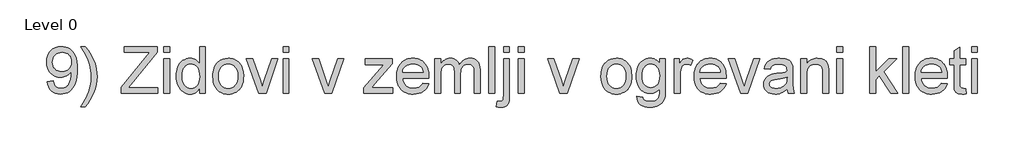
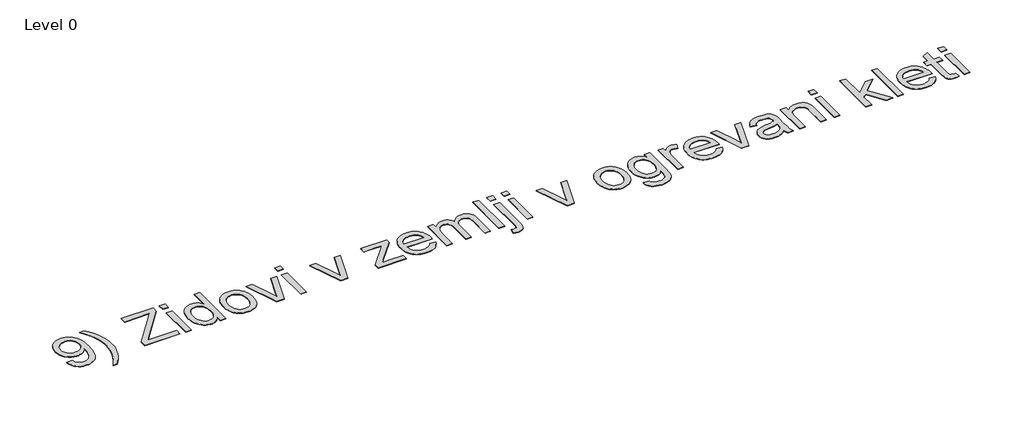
# One storey, part 8 of 11: 1 proxy.
"""IFC4 building model written with IfcOpenShell, lengths in millimetres."""

from ifc_helpers import new_model, si_unit, origin, origin_with_axes, place, context, project, spatial, polyline, outline, extrude, element, save

model = new_model("IFC4")

# Units and contexts
model_context = context("Model", 3, world=origin())
ifc_project = project(units=[si_unit("LENGTHUNIT", "METRE", prefix="MILLI")], contexts=[model_context])

# Site, building, storey
site = spatial("IfcSite", under=ifc_project)
building = spatial("IfcBuilding", under=site)
storey = spatial("IfcBuildingStorey", under=building, Name="Level 0", Elevation=0.0)

# Proxy
placement = place(None, origin())
element("IfcBuildingElementProxy", 1, Name="1000mm Arial", ObjectType="1000mm Arial", at=placement, inside=storey, context=model_context, shape_type="SweptSolid", body=[
    extrude(outline(polyline([(46863.1423258, -53767.7802272), (46988.7127135, -53752.0839288), (46997.7564793, -53790.5659183), (47010.1724966, -53823.3610653), (47025.9607655, -53850.4693699), (47045.1212861, -53871.8908319), (47067.4394605, -53888.1466175), (47092.7006908, -53899.757893), (47120.9049771, -53906.7246583), (47152.0523194, -53909.0469134), (47205.3032382, -53903.068831), (47230.1122802, -53895.5962279), (47253.7103774, -53885.1345837), (47275.2621309, -53872.1744076), (47293.9321422, -53857.2062089), (47309.7204112, -53840.2299877), (47322.6269378, -53821.2457439), (47344.3626324, -53773.9729075), (47363.707094, -53712.1074186), (47377.3187278, -53641.1061936), (47381.855939, -53566.4261485), (47381.1201751, -53541.9006822), (47361.0476137, -53569.829057), (47337.6181291, -53594.9983168), (47310.8317214, -53617.4084617), (47280.6883904, -53637.0594916), (47248.2151401, -53653.04703), (47214.4389744, -53664.4667002), (47179.3598933, -53671.3185024), (47142.9778968, -53673.6024365), (47083.3273642, -53668.0228929), (47028.4746258, -53651.2842621), (46978.4196819, -53623.3865441), (46933.1625323, -53584.329739), (46913.0727264, -53561.1263485), (46895.6615614, -53536.152526), (46880.9290371, -53509.4082714), (46868.8751536, -53480.8935847), (46852.8033089, -53418.5529149), (46847.4460274, -53349.1305167), (46853.063892, -53277.3935277), (46860.0862228, -53244.2841481), (46869.9174859, -53213.0141785), (46882.5576814, -53183.5836189), (46898.0068091, -53155.9924692), (46916.2648692, -53130.2407296), (46937.3318615, -53106.3283999), (46985.1181999, -53066.0913067), (47011.143935, -53050.2838772), (47038.5913807, -53037.3505258), (47097.7514041, -53020.1060573), (47162.5982699, -53014.3579011), (47210.4765788, -53017.6381822), (47256.2548945, -53027.4790256), (47299.9332172, -53043.8804312), (47341.5115469, -53066.8423991), (47379.6026618, -53095.8744199), (47412.8193403, -53130.4859842), (47441.1615824, -53170.6770922), (47464.629388, -53216.4477438), (47483.0311519, -53270.4344266), (47496.175269, -53335.2736282), (47504.0617393, -53410.9653487), (47506.6905627, -53497.5095881), (47504.0694035, -53588.3994335), (47496.2059259, -53669.5250777), (47483.1001298, -53740.8865205), (47464.7520153, -53802.4837621), (47441.2305602, -53855.8189872), (47412.6047425, -53902.3943806), (47378.874562, -53942.2099424), (47340.0400189, -53975.2656725), (47296.8828624, -54001.23201), (47250.1848416, -54019.7793939), (47199.9459566, -54030.9078243), (47146.1662075, -54034.6173011), (47089.7729633, -54030.2410382), (47038.8059785, -54017.1122495), (46993.2652532, -53995.230935), (46953.1507873, -53964.5970946), (46919.4742564, -53926.038463), (46893.2473358, -53880.3827746), (46874.4700256, -53827.6300293), (46863.1423258, -53767.7802272)]), holes=[polyline([(47381.1201751, -53346.1874608), (47377.732595, -53301.18323), (47367.5698549, -53261.0840925), (47350.6319547, -53225.8900483), (47326.9188944, -53195.6010974), (47297.5956337, -53171.2442436), (47263.8271323, -53153.8464909), (47225.61339, -53143.4078393), (47182.954407, -53139.9282888), (47138.9311949, -53143.6760866), (47099.0773121, -53154.9194801), (47063.3927586, -53173.6584692), (47031.8775343, -53199.893054), (47006.1257946, -53232.0903928), (46987.7316949, -53268.7176439), (46976.695235, -53309.7748074), (46973.0164151, -53355.2618833), (46976.4959656, -53396.0584637), (46986.9346172, -53432.8543275), (47004.3323699, -53465.6494745), (47028.6892237, -53494.4439048), (47058.993503, -53517.8887178), (47094.2335325, -53534.6350128), (47134.409312, -53544.6827898), (47179.5208417, -53548.0320488), (47221.5896807, -53544.6827898), (47259.7497735, -53534.6350128), (47294.0011201, -53517.8887178), (47324.3437205, -53494.4439048), (47349.1834194, -53465.0823231), (47366.9260614, -53430.5857218), (47377.5716466, -53390.954101), (47381.1201751, -53346.1874608)])]), origin_with_axes(), (0.0, 0.0, 1.0), 10.0),
    extrude(outline(polyline([(47679.3498458, -54301.4543749), (47585.172055, -54301.4543749), (47636.6755344, -54221.0644947), (47681.3118831, -54140.6592862), (47719.0811013, -54060.2387492), (47749.9831889, -53979.8028838), (47774.0181459, -53899.35169), (47791.1859723, -53818.8851677), (47801.4866682, -53738.4033171), (47804.9202335, -53657.906138), (47802.9428678, -53595.1209442), (47797.0107706, -53532.581005), (47787.123942, -53470.2863205), (47773.2823819, -53408.2368906), (47743.2999993, -53309.7058296), (47703.3848028, -53215.2214705), (47659.6068454, -53134.8392545), (47585.172055, -53014.3579011), (47679.3498458, -53014.3579011), (47741.4912462, -53098.4495938), (47794.9874196, -53182.7252276), (47839.8383662, -53267.1848023), (47876.0440859, -53351.828318), (47899.8644451, -53425.6346433), (47916.8789874, -53501.1270944), (47927.0877127, -53578.3056713), (47930.4906212, -53657.170374), (47925.9150889, -53746.902924), (47912.1884919, -53835.1026323), (47889.3108304, -53921.769499), (47857.2821041, -54006.9035241), (47818.7081441, -54088.5886554), (47776.194781, -54164.908841), (47729.7420149, -54235.8640808), (47679.3498458, -54301.4543749)])), origin_with_axes(), (0.0, 0.0, 1.0), 10.0),
    extrude(outline(polyline([(48448.4684704, -54018.9210026), (48448.4684704, -53888.6907763), (48962.2769903, -53259.6125646), (49059.8883464, -53139.9282888), (48511.2536642, -53139.9282888), (48511.2536642, -53014.3579011), (49217.587095, -53014.3579011), (49217.587095, -53139.9282888), (48655.2181517, -53828.3581291), (48602.2431444, -53893.3506149), (49233.2833934, -53893.3506149), (49233.2833934, -54018.9210026), (48448.4684704, -54018.9210026)])), origin_with_axes(), (0.0, 0.0, 1.0), 10.0),
    extrude(outline(polyline([(49358.8537811, -53139.9282888), (49358.8537811, -53014.3579011), (49484.4241688, -53014.3579011), (49484.4241688, -53139.9282888), (49358.8537811, -53139.9282888)])), origin_with_axes(), (0.0, 0.0, 1.0), 10.0),
    extrude(outline(polyline([(49358.8537811, -54018.9210026), (49358.8537811, -53281.1949749), (49484.4241688, -53281.1949749), (49484.4241688, -54018.9210026), (49358.8537811, -54018.9210026)])), origin_with_axes(), (0.0, 0.0, 1.0), 10.0),
    extrude(outline(polyline([(50127.9724057, -54018.9210026), (50127.9724057, -53900.4630002), (50110.1799463, -53931.9054144), (50090.402457, -53959.1555068), (50068.6399377, -53982.2132773), (50044.8923885, -54001.0787258), (50019.1598093, -54015.7518525), (49991.4422003, -54026.2326573), (49961.7395612, -54032.5211401), (49930.0518923, -54034.6173011), (49888.6038542, -54031.5822746), (49848.8725987, -54022.4771952), (49810.8581259, -54007.3020629), (49774.5604357, -53986.0568777), (49741.1138309, -53959.3777688), (49711.6526145, -53927.9008656), (49686.1767863, -53891.6261681), (49664.6863465, -53850.5536761), (49647.6258189, -53805.4651391), (49635.4397278, -53757.1423062), (49628.1280732, -53705.5851774), (49625.690855, -53650.7937528), (49627.936468, -53597.0063394), (49634.673307, -53545.7634431), (49645.9013721, -53497.065064), (49661.6206632, -53450.911202), (49681.8235161, -53408.6507579), (49706.5022666, -53371.6326321), (49735.6569147, -53339.8568248), (49769.2874604, -53313.3233359), (49806.2059515, -53292.4000474), (49845.2244356, -53277.4548413), (49886.3429128, -53268.4877177), (49929.561383, -53265.4986765), (49961.1685777, -53267.6369906), (49990.9976762, -53274.0519329), (50019.0486783, -53284.7435034), (50045.3215841, -53299.711702), (50069.5251537, -53318.0981376), (50091.3681472, -53339.0444187), (50110.8505645, -53362.5505453), (50127.9724057, -53388.6165175), (50127.9724057, -53014.3579011), (50253.5427934, -53014.3579011), (50253.5427934, -54018.9210026), (50127.9724057, -54018.9210026)]), holes=[polyline([(49751.2612426, -53650.3032434), (49754.8021069, -53711.1953778), (49765.4246995, -53763.8868094), (49783.1290205, -53808.3775382), (49807.9150699, -53844.6675642), (49837.5142421, -53872.8335295), (49869.6579314, -53892.9520761), (49904.3461379, -53905.0232041), (49941.5788615, -53909.0469134), (49978.9878619, -53905.2071451), (50013.4691347, -53893.6878401), (50045.02268, -53874.4889985), (50073.6484978, -53847.6106202), (50097.4152075, -53812.8381074), (50114.3914287, -53769.9568624), (50124.5771615, -53718.966885), (50127.9724057, -53659.8681753), (50124.5158478, -53595.0749589), (50114.1461741, -53539.5094492), (50096.8633845, -53493.1716462), (50072.6674791, -53456.06155), (50043.4131963, -53427.6273374), (50010.9552744, -53407.3171856), (49975.2937135, -53395.1310945), (49936.4285136, -53391.0690642), (49898.460026, -53394.9701462), (49863.7718195, -53406.6733921), (49832.3638942, -53426.1788021), (49804.23625, -53453.486376), (49781.0596843, -53489.1939222), (49764.5049945, -53533.8992488), (49754.5721806, -53587.6023559), (49751.2612426, -53650.3032434)])]), origin_with_axes(), (0.0, 0.0, 1.0), 10.0),
    extrude(outline(polyline([(50410.505778, -53650.0579888), (50412.2034001, -53600.635342), (50417.2962665, -53554.5159689), (50425.7843771, -53511.6998696), (50437.667732, -53472.1870441), (50452.9463311, -53435.9774923), (50471.6201745, -53403.0712143), (50493.6892621, -53373.46821), (50519.1535939, -53347.1684794), (50567.0089101, -53311.4379406), (50619.8306333, -53285.9161272), (50677.6187633, -53270.6030392), (50740.3733003, -53265.4986765), (50775.84134, -53267.0525947), (50809.6500786, -53271.7143494), (50841.799516, -53279.4839405), (50872.2896525, -53290.361368), (50901.1204878, -53304.346632), (50928.292022, -53321.4397324), (50953.8042552, -53341.6406692), (50977.6571872, -53364.9494425), (50999.2415137, -53390.9981702), (51017.9479299, -53419.4189704), (51033.776436, -53450.211843), (51046.7270318, -53483.3767881), (51056.7997175, -53518.9138056), (51063.994493, -53556.8228956), (51069.7503134, -53639.7572929), (51067.2057962, -53706.9723991), (51059.5722448, -53766.6152676), (51046.8496592, -53818.6858983), (51029.0380392, -53863.1842913), (51006.3596471, -53901.6202956), (50979.0367447, -53935.5037602), (50947.0693322, -53964.8346851), (50910.4574095, -53989.6130703), (50870.6265193, -54009.3024213), (50829.0022044, -54023.3662434), (50785.5844647, -54031.8045366), (50740.3733003, -54034.6173011), (50704.3457735, -54033.069131), (50670.0848466, -54028.4246208), (50637.5905198, -54020.6837705), (50606.8627929, -54009.8465801), (50577.9016661, -53995.9130495), (50550.7071392, -53978.8831788), (50525.2792123, -53958.756968), (50501.6178855, -53935.534417), (50480.2634853, -53909.399467), (50461.7563385, -53880.5360587), (50446.096445, -53848.9441924), (50433.2838049, -53814.6238679), (50423.3184181, -53777.5750853), (50416.2002847, -53737.7978446), (50410.505778, -53650.0579888)]), holes=[polyline([(50536.0761657, -53649.8127341), (50539.7090004, -53710.7201969), (50550.6075045, -53763.4576138), (50568.771678, -53808.0249847), (50594.2015209, -53844.4223096), (50625.1342654, -53872.6955737), (50659.8071434, -53892.8907624), (50698.2201551, -53905.0078756), (50740.3733003, -53909.0469134), (50782.3118478, -53904.984883), (50820.5715753, -53892.7987919), (50855.1524828, -53872.4886401), (50886.0545704, -53844.0544276), (50911.4844134, -53807.2968849), (50929.6485869, -53762.0167426), (50940.547091, -53708.2140008), (50944.1799257, -53645.8886595), (50940.5240983, -53586.9125771), (50929.5566164, -53535.5547178), (50911.2774797, -53491.8150814), (50885.6866884, -53455.693668), (50854.6696377, -53427.4204038), (50820.1117228, -53407.2252151), (50782.0129437, -53395.1081019), (50740.3733003, -53391.0690642), (50698.2201551, -53395.0927735), (50659.8071434, -53407.1639015), (50625.1342654, -53427.2824481), (50594.2015209, -53455.4484133), (50568.771678, -53491.7384393), (50550.6075045, -53536.2291681), (50539.7090004, -53588.9205997), (50536.0761657, -53649.8127341)])]), origin_with_axes(), (0.0, 0.0, 1.0), 10.0),
    extrude(outline(polyline([(51392.0149411, -54018.9210026), (51132.5355072, -53281.1949749), (51265.4635348, -53281.1949749), (51422.6717741, -53723.1438785), (51470.0059241, -53871.7682045), (51516.3590555, -53731.482537), (51674.5483134, -53281.1949749), (51807.476341, -53281.1949749), (51551.1852177, -54018.9210026), (51392.0149411, -54018.9210026)])), origin_with_axes(), (0.0, 0.0, 1.0), 10.0),
    extrude(outline(polyline([(51917.3504303, -54018.9210026), (51917.3504303, -53281.1949749), (52042.9208179, -53281.1949749), (52042.9208179, -54018.9210026), (51917.3504303, -54018.9210026)])), origin_with_axes(), (0.0, 0.0, 1.0), 10.0),
    extrude(outline(polyline([(51917.3504303, -53139.9282888), (51917.3504303, -53014.3579011), (52042.9208179, -53014.3579011), (52042.9208179, -53139.9282888), (51917.3504303, -53139.9282888)])), origin_with_axes(), (0.0, 0.0, 1.0), 10.0),
    extrude(outline(polyline([(52804.6818026, -54018.9210026), (52545.2023687, -53281.1949749), (52678.1303963, -53281.1949749), (52835.3386355, -53723.1438785), (52882.6727856, -53871.7682045), (52929.025917, -53731.482537), (53087.2151749, -53281.1949749), (53220.1432025, -53281.1949749), (52963.8520792, -54018.9210026), (52804.6818026, -54018.9210026)])), origin_with_axes(), (0.0, 0.0, 1.0), 10.0),
    extrude(outline(polyline([(53643.9432609, -54018.9210026), (53643.9432609, -53900.7082548), (54077.3082513, -53406.7653626), (53949.0400623, -53406.7653626), (53675.3358579, -53406.7653626), (53675.3358579, -53281.1949749), (54256.0989009, -53281.1949749), (54256.0989009, -53387.8807535), (53871.7848433, -53826.1508371), (53812.9237241, -53893.3506149), (53958.1144848, -53893.3506149), (54271.7951994, -53893.3506149), (54271.7951994, -54018.9210026), (53643.9432609, -54018.9210026)])), origin_with_axes(), (0.0, 0.0, 1.0), 10.0),
    extrude(outline(polyline([(54913.8719083, -53799.1728241), (55036.9897493, -53814.8691226), (55018.1128045, -53864.1806384), (54992.6293121, -53907.6366991), (54960.5392722, -53945.2373047), (54921.8426849, -53976.9824552), (54876.9380888, -54002.1977002), (54826.2240229, -54020.2085896), (54769.7004872, -54031.0151232), (54707.3674817, -54034.6173011), (54667.3488184, -54033.0633828), (54629.4531408, -54028.4016282), (54593.6804488, -54020.6320371), (54560.0307426, -54009.7546096), (54528.504022, -53995.7693456), (54499.1002872, -53978.6762452), (54471.8195379, -53958.4753083), (54446.6617744, -53935.166535), (54424.0715207, -53909.0526615), (54404.4933007, -53880.436424), (54387.9271146, -53849.3178226), (54374.3729624, -53815.6968571), (54363.8308439, -53779.5735276), (54356.3007594, -53740.9478342), (54351.7827086, -53699.8197768), (54350.2766917, -53656.1893554), (54351.798037, -53611.0739936), (54356.362073, -53568.5567984), (54363.9687997, -53528.6377698), (54374.618217, -53491.3169079), (54388.310325, -53456.5942125), (54405.0451237, -53424.4696836), (54424.8226131, -53394.9433214), (54447.6427931, -53368.0151258), (54472.888695, -53343.987833), (54499.9433501, -53323.1641792), (54528.8067583, -53305.5441645), (54559.4789196, -53291.1277888), (54591.9598341, -53279.9150522), (54626.2495017, -53271.9059546), (54662.3479225, -53267.100496), (54700.2550964, -53265.4986765), (54736.9225847, -53267.0966639), (54771.8771224, -53271.8906261), (54805.1187095, -53279.8805632), (54836.6473461, -53291.0664751), (54866.4630322, -53305.4483619), (54894.5657678, -53323.0262235), (54920.9555528, -53343.8000599), (54945.6323872, -53367.7698711), (54967.963974, -53394.6367531), (54987.3180158, -53424.1018017), (55003.6945127, -53456.1650168), (55017.0934648, -53490.8263985), (55027.5148719, -53528.0859468), (55034.9587342, -53567.9436618), (55040.913824, -53655.4535914), (55040.17806, -53689.2987349), (54475.8470794, -53689.2987349), (54483.120413, -53739.4073283), (54497.5827739, -53783.2925847), (54519.2341622, -53820.9545039), (54548.0745778, -53852.3930861), (54582.5098654, -53877.1791355), (54620.9458696, -53894.8834566), (54663.3825906, -53905.5060492), (54709.8200283, -53909.0469134), (54744.55422, -53907.4067728), (54776.6519241, -53902.4863511), (54806.1131405, -53894.2856483), (54832.9378694, -53882.8046644), (54857.1261105, -53867.736831), (54878.6778641, -53848.7755798), (54897.59313, -53825.9209109), (54913.8719083, -53799.1728241)]), holes=[polyline([(54475.8470794, -53563.7283472), (54915.3434363, -53563.7283472), (54908.8901729, -53528.1970779), (54898.3595508, -53497.3869608), (54883.7515699, -53471.2979959), (54865.0662303, -53449.9301834), (54830.8225479, -53424.1784437), (54791.8577132, -53405.784344), (54748.1717263, -53394.7478841), (54699.7645871, -53391.0690642), (54655.6110835, -53394.0044559), (54615.1210714, -53402.8106312), (54578.2945508, -53417.4875899), (54545.1315218, -53438.0353322), (54517.3027817, -53463.5034962), (54496.4791279, -53492.94172), (54482.6605605, -53526.3500037), (54475.8470794, -53563.7283472)])]), origin_with_axes(), (0.0, 0.0, 1.0), 10.0),
    extrude(outline(polyline([(55166.4842117, -54018.9210026), (55166.4842117, -53281.1949749), (55292.0545993, -53281.1949749), (55292.0545993, -53402.5960333), (55309.5903078, -53373.2037948), (55329.8238175, -53346.8312542), (55352.7551285, -53323.4784118), (55378.3842409, -53303.1452673), (55406.2972873, -53286.6748838), (55436.0804005, -53274.9103242), (55467.7335805, -53267.8515884), (55501.2568273, -53265.4986765), (55537.907071, -53267.8975737), (55571.0930927, -53275.0942652), (55600.8148922, -53287.0887511), (55627.0724696, -53303.8810313), (55649.7891828, -53324.995925), (55668.8883897, -53349.9582512), (55684.3700904, -53378.76801), (55696.2342847, -53411.4252012), (55718.3148686, -53377.223672), (55742.0049363, -53347.5823467), (55767.3044877, -53322.5012252), (55794.2135228, -53301.9803077), (55822.7320416, -53286.019594), (55852.8600442, -53274.6190843), (55884.5975304, -53267.7787784), (55917.9445005, -53265.4986765), (55968.2140423, -53269.2924596), (56012.3368891, -53280.6738088), (56050.3130409, -53299.6427242), (56082.1424976, -53326.1992057), (56107.3040933, -53360.6498217), (56125.2766616, -53403.3011405), (56136.0602026, -53454.1531621), (56139.6547162, -53513.2058866), (56139.6547162, -54018.9210026), (56014.0843285, -54018.9210026), (56014.0843285, -53567.1619125), (56011.1719294, -53504.5300028), (56002.434732, -53462.3155439), (55986.0639832, -53433.4061504), (55960.2509299, -53410.6894372), (55927.0495798, -53395.9741574), (55888.5139409, -53391.0690642), (55852.929022, -53394.2113895), (55820.4864286, -53403.6383657), (55791.1861605, -53419.3499925), (55765.0282178, -53441.3462702), (55743.5147853, -53470.270992), (55728.1480478, -53506.7679516), (55718.9280053, -53550.837149), (55715.8546578, -53602.4785841), (55715.8546578, -54018.9210026), (55590.2842701, -54018.9210026), (55590.2842701, -53553.1823967), (55588.4678527, -53515.137267), (55583.0186007, -53482.1811716), (55573.9365139, -53454.3141105), (55561.2215925, -53431.5360836), (55544.3679986, -53413.8317626), (55522.8698945, -53401.185819), (55496.7272802, -53393.5982529), (55465.9401557, -53391.0690642), (55441.2767336, -53392.75519), (55417.5636734, -53397.8135674), (55394.8009749, -53406.2441965), (55372.9886383, -53418.0470771), (55353.1230105, -53433.0995821), (55336.2004388, -53451.279084), (55322.2209229, -53472.5855829), (55311.1844631, -53497.0190788), (55302.8151477, -53525.882487), (55296.8370653, -53560.4787229), (55292.0545993, -53646.8696781), (55292.0545993, -54018.9210026), (55166.4842117, -54018.9210026)])), origin_with_axes(), (0.0, 0.0, 1.0), 10.0),
    extrude(outline(polyline([(56328.0102978, -54018.9210026), (56328.0102978, -53014.3579011), (56453.5806854, -53014.3579011), (56453.5806854, -54018.9210026), (56328.0102978, -54018.9210026)])), origin_with_axes(), (0.0, 0.0, 1.0), 10.0),
    extrude(outline(polyline([(56641.936267, -53139.9282888), (56641.936267, -53014.3579011), (56767.5066547, -53014.3579011), (56767.5066547, -53139.9282888), (56641.936267, -53139.9282888)])), origin_with_axes(), (0.0, 0.0, 1.0), 10.0),
    extrude(outline(polyline([(56483.747009, -54301.9448842), (56510.2345127, -54182.5058631), (56542.9146966, -54189.31168), (56567.8693586, -54191.5802857), (56585.4280597, -54190.0244514), (56600.5801994, -54185.3569486), (56613.3257776, -54177.5777772), (56623.6647945, -54166.6869373), (56631.6585637, -54149.5727603), (56637.3683989, -54123.1235777), (56641.936267, -54042.2201956), (56641.936267, -53281.1949749), (56767.5066547, -53281.1949749), (56767.5066547, -54058.4070034), (56765.2840343, -54121.1921973), (56758.6161731, -54173.6766952), (56747.5030712, -54215.8604974), (56731.9447285, -54247.7436036), (56705.6411658, -54278.1091966), (56671.8573359, -54299.7989059), (56630.5932388, -54312.8127315), (56581.8488744, -54317.1506734), (56531.9395504, -54313.3492261), (56483.747009, -54301.9448842)])), origin_with_axes(), (0.0, 0.0, 1.0), 10.0),
    extrude(outline(polyline([(56955.8622362, -54018.9210026), (56955.8622362, -53281.1949749), (57081.4326239, -53281.1949749), (57081.4326239, -54018.9210026), (56955.8622362, -54018.9210026)])), origin_with_axes(), (0.0, 0.0, 1.0), 10.0),
    extrude(outline(polyline([(56955.8622362, -53139.9282888), (56955.8622362, -53014.3579011), (57081.4326239, -53014.3579011), (57081.4326239, -53139.9282888), (56955.8622362, -53139.9282888)])), origin_with_axes(), (0.0, 0.0, 1.0), 10.0),
    extrude(outline(polyline([(57843.1936086, -54018.9210026), (57583.7141746, -53281.1949749), (57716.6422022, -53281.1949749), (57873.8504415, -53723.1438785), (57921.1845915, -53871.7682045), (57967.5377229, -53731.482537), (58125.7269809, -53281.1949749), (58258.6550084, -53281.1949749), (58002.3638851, -54018.9210026), (57843.1936086, -54018.9210026)])), origin_with_axes(), (0.0, 0.0, 1.0), 10.0),
    extrude(outline(polyline([(58729.5439623, -53650.0579888), (58731.2415844, -53600.635342), (58736.3344508, -53554.5159689), (58744.8225614, -53511.6998696), (58756.7059162, -53472.1870441), (58771.9845154, -53435.9774923), (58790.6583587, -53403.0712143), (58812.7274463, -53373.46821), (58838.1917782, -53347.1684794), (58886.0470944, -53311.4379406), (58938.8688175, -53285.9161272), (58996.6569476, -53270.6030392), (59059.4114846, -53265.4986765), (59094.8795243, -53267.0525947), (59128.6882628, -53271.7143494), (59160.8377003, -53279.4839405), (59191.3278367, -53290.361368), (59220.158672, -53304.346632), (59247.3302063, -53321.4397324), (59272.8424394, -53341.6406692), (59296.6953715, -53364.9494425), (59318.2796979, -53390.9981702), (59336.9861142, -53419.4189704), (59352.8146202, -53450.211843), (59365.7652161, -53483.3767881), (59375.8379018, -53518.9138056), (59383.0326772, -53556.8228956), (59388.7884976, -53639.7572929), (59386.2439805, -53706.9723991), (59378.6104291, -53766.6152676), (59365.8878434, -53818.6858983), (59348.0762235, -53863.1842913), (59325.3978313, -53901.6202956), (59298.074929, -53935.5037602), (59266.1075164, -53964.8346851), (59229.4955937, -53989.6130703), (59189.6647035, -54009.3024213), (59148.0403886, -54023.3662434), (59104.622649, -54031.8045366), (59059.4114846, -54034.6173011), (59023.3839578, -54033.069131), (58989.1230309, -54028.4246208), (58956.6287041, -54020.6837705), (58925.9009772, -54009.8465801), (58896.9398503, -53995.9130495), (58869.7453235, -53978.8831788), (58844.3173966, -53958.756968), (58820.6560697, -53935.534417), (58799.3016696, -53909.399467), (58780.7945227, -53880.5360587), (58765.1346293, -53848.9441924), (58752.3219891, -53814.6238679), (58742.3566024, -53777.5750853), (58735.238469, -53737.7978446), (58729.5439623, -53650.0579888)]), holes=[polyline([(58855.11435, -53649.8127341), (58858.7471847, -53710.7201969), (58869.6456888, -53763.4576138), (58887.8098623, -53808.0249847), (58913.2397052, -53844.4223096), (58944.1724496, -53872.6955737), (58978.8453277, -53892.8907624), (59017.2583393, -53905.0078756), (59059.4114846, -53909.0469134), (59101.3500321, -53904.984883), (59139.6097596, -53892.7987919), (59174.1906671, -53872.4886401), (59205.0927547, -53844.0544276), (59230.5225976, -53807.2968849), (59248.6867711, -53762.0167426), (59259.5852752, -53708.2140008), (59263.2181099, -53645.8886595), (59259.5622826, -53586.9125771), (59248.5948006, -53535.5547178), (59230.315664, -53491.8150814), (59204.7248727, -53455.693668), (59173.707822, -53427.4204038), (59139.1499071, -53407.2252151), (59101.0511279, -53395.1081019), (59059.4114846, -53391.0690642), (59017.2583393, -53395.0927735), (58978.8453277, -53407.1639015), (58944.1724496, -53427.2824481), (58913.2397052, -53455.4484133), (58887.8098623, -53491.7384393), (58869.6456888, -53536.2291681), (58858.7471847, -53588.9205997), (58855.11435, -53649.8127341)])]), origin_with_axes(), (0.0, 0.0, 1.0), 10.0),
    extrude(outline(polyline([(59498.6625869, -54081.7061964), (59624.2329745, -54097.4024949), (59629.5366066, -54118.5557096), (59638.089863, -54136.6432411), (59649.8927437, -54151.6650892), (59664.9452487, -54163.621254), (59689.3021024, -54175.8533304), (59717.736315, -54184.5905278), (59750.2478863, -54189.8328462), (59786.8368164, -54191.5802857), (59826.0469057, -54189.6029199), (59860.5358428, -54183.6708228), (59890.3036276, -54173.7839942), (59915.3502601, -54159.9424341), (59936.1969065, -54142.529353), (59953.3647329, -54121.9279613), (59966.8537394, -54098.1382589), (59976.6639259, -54071.1602459), (59983.4697428, -54017.1429063), (59985.2478391, -53924.7432118), (59943.4625759, -53965.9459953), (59896.833533, -53995.3765549), (59871.7025942, -54005.6772508), (59845.3607105, -54013.0348907), (59789.0441084, -54018.9210026), (59753.5913971, -54017.2080521), (59720.1965258, -54012.0692004), (59688.8594944, -54003.5044477), (59659.5803029, -53991.513794), (59632.3589513, -53976.0972391), (59607.1954396, -53957.2547832), (59584.0897679, -53934.9864261), (59563.041936, -53909.292168), (59528.0088402, -53851.7492926), (59502.9852003, -53788.749501), (59487.9710164, -53720.292793), (59482.9662884, -53646.3791688), (59485.2119014, -53594.6687559), (59491.9487404, -53544.9970223), (59503.1768055, -53497.3639681), (59518.8960966, -53451.7695934), (59538.8690232, -53409.7314112), (59562.857995, -53372.7669349), (59590.8630119, -53340.8761644), (59622.8840739, -53314.0590998), (59658.4076791, -53292.8139146), (59696.9203254, -53277.6387823), (59738.422013, -53268.5337029), (59782.9127418, -53265.4986765), (59812.952606, -53267.2154591), (59841.6359053, -53272.3658071), (59868.9626397, -53280.9497203), (59894.9328093, -53292.9671988), (59919.5464141, -53308.4182426), (59942.8034539, -53327.3028517), (59964.703929, -53349.621026), (59985.2478391, -53375.3727657), (59985.2478391, -53281.1949749), (60110.8182268, -53281.1949749), (60110.8182268, -53918.1213359), (60108.6722485, -53997.9287363), (60102.2343136, -54065.1821635), (60091.5044221, -54119.8816177), (60076.4825739, -54162.0270987), (60056.8085514, -54196.0178622), (60032.1221367, -54226.2531637), (60002.4233298, -54252.7330032), (59967.7121307, -54275.4573806), (59928.341093, -54293.6981962), (59884.6627703, -54306.7273502), (59836.6771625, -54314.5448426), (59784.3842698, -54317.1506734), (59722.8636703, -54313.4795176), (59667.5510795, -54302.4660504), (59618.4464973, -54284.1102717), (59575.5499238, -54258.4121815), (59540.9000384, -54225.3411229), (59516.5355205, -54184.8664393), (59502.4563699, -54136.9881304), (59498.6625869, -54081.7061964)]), holes=[polyline([(59608.5366761, -53637.7952556), (59611.8859351, -53699.8830065), (59621.9337121, -53752.9729769), (59638.6800071, -53797.0651669), (59662.12482, -53832.1595764), (59690.6280105, -53858.9306557), (59722.5494378, -53878.0528553), (59757.8891019, -53889.526175), (59796.6470029, -53893.3506149), (59835.0216936, -53889.5491676), (59870.1927451, -53878.1448258), (59902.1601577, -53859.1375894), (59930.9239312, -53832.5274584), (59954.6906409, -53797.7779383), (59971.6668622, -53754.3525344), (59981.8525949, -53702.2512468), (59985.2478391, -53641.4740756), (59981.7529602, -53583.2337572), (59971.2683233, -53532.6116618), (59953.7939286, -53489.6077894), (59929.3297759, -53454.22214), (59899.9452015, -53426.5926693), (59867.7095417, -53406.8573331), (59832.6227964, -53395.0161314), (59794.6849656, -53391.0690642), (59757.3832642, -53394.9548177), (59722.9786334, -53406.6120785), (59691.4710734, -53426.0408463), (59662.860584, -53453.2411214), (59639.0938743, -53488.0902762), (59622.1176531, -53530.4656835), (59611.9319203, -53580.3673433), (59608.5366761, -53637.7952556)])]), origin_with_axes(), (0.0, 0.0, 1.0), 10.0),
    extrude(outline(polyline([(60299.1738084, -54018.9210026), (60299.1738084, -53281.1949749), (60409.0478976, -53281.1949749), (60409.0478976, -53390.3333002), (60449.6375444, -53327.057597), (60468.7367513, -53305.1686183), (60487.0388806, -53289.7788882), (60524.5628441, -53271.5687294), (60565.5203729, -53265.4986765), (60596.6677151, -53267.9205663), (60628.060312, -53275.1862357), (60659.6981636, -53287.2956847), (60691.5812699, -53304.2489133), (60649.6427224, -53416.8208038), (60605.496883, -53397.5069991), (60583.4239633, -53392.6785479), (60561.3510436, -53391.0690642), (60542.1062167, -53392.6172342), (60523.8577369, -53397.2617444), (60506.6056042, -53405.0025947), (60490.3498185, -53415.8397852), (60475.7035166, -53429.4207622), (60463.279835, -53445.3929721), (60445.1003331, -53484.5110909), (60429.8332303, -53554.6539247), (60424.744196, -53631.1733797), (60424.744196, -54018.9210026), (60299.1738084, -54018.9210026)])), origin_with_axes(), (0.0, 0.0, 1.0), 10.0),
    extrude(outline(polyline([(61286.5690834, -53799.1728241), (61409.6869245, -53814.8691226), (61390.8099796, -53864.1806384), (61365.3264872, -53907.6366991), (61333.2364473, -53945.2373047), (61294.53986, -53976.9824552), (61249.6352639, -54002.1977002), (61198.9211981, -54020.2085896), (61142.3976623, -54031.0151232), (61080.0646568, -54034.6173011), (61040.0459935, -54033.0633828), (61002.1503159, -54028.4016282), (60966.377624, -54020.6320371), (60932.7279177, -54009.7546096), (60901.2011972, -53995.7693456), (60871.7974623, -53978.6762452), (60844.5167131, -53958.4753083), (60819.3589495, -53935.166535), (60796.7686958, -53909.0526615), (60777.1904758, -53880.436424), (60760.6242897, -53849.3178226), (60747.0701375, -53815.6968571), (60736.5280191, -53779.5735276), (60728.9979345, -53740.9478342), (60724.4798837, -53699.8197768), (60722.9738668, -53656.1893554), (60724.4952121, -53611.0739936), (60729.0592481, -53568.5567984), (60736.6659748, -53528.6377698), (60747.3153922, -53491.3169079), (60761.0075002, -53456.5942125), (60777.7422988, -53424.4696836), (60797.5197882, -53394.9433214), (60820.3399682, -53368.0151258), (60845.5858701, -53343.987833), (60872.6405252, -53323.1641792), (60901.5039334, -53305.5441645), (60932.1760947, -53291.1277888), (60964.6570092, -53279.9150522), (60998.9466769, -53271.9059546), (61035.0450976, -53267.100496), (61072.9522715, -53265.4986765), (61109.6197598, -53267.0966639), (61144.5742975, -53271.8906261), (61177.8158846, -53279.8805632), (61209.3445213, -53291.0664751), (61239.1602073, -53305.4483619), (61267.2629429, -53323.0262235), (61293.6527279, -53343.8000599), (61318.3295623, -53367.7698711), (61340.6611491, -53394.6367531), (61360.0151909, -53424.1018017), (61376.3916879, -53456.1650168), (61389.7906399, -53490.8263985), (61400.212047, -53528.0859468), (61407.6559093, -53567.9436618), (61413.6109991, -53655.4535914), (61412.8752351, -53689.2987349), (60848.5442545, -53689.2987349), (60855.8175881, -53739.4073283), (60870.279949, -53783.2925847), (60891.9313373, -53820.9545039), (60920.7717529, -53852.3930861), (60955.2070405, -53877.1791355), (60993.6430448, -53894.8834566), (61036.0797657, -53905.5060492), (61082.5172034, -53909.0469134), (61117.2513951, -53907.4067728), (61149.3490992, -53902.4863511), (61178.8103157, -53894.2856483), (61205.6350445, -53882.8046644), (61229.8232857, -53867.736831), (61251.3750392, -53848.7755798), (61270.2903051, -53825.9209109), (61286.5690834, -53799.1728241)]), holes=[polyline([(60848.5442545, -53563.7283472), (61288.0406114, -53563.7283472), (61281.5873481, -53528.1970779), (61271.056726, -53497.3869608), (61256.4487451, -53471.2979959), (61237.7634054, -53449.9301834), (61203.519723, -53424.1784437), (61164.5548883, -53405.784344), (61120.8689014, -53394.7478841), (61072.4617622, -53391.0690642), (61028.3082586, -53394.0044559), (60987.8182465, -53402.8106312), (60950.9917259, -53417.4875899), (60917.8286969, -53438.0353322), (60889.9999568, -53463.5034962), (60869.1763031, -53492.94172), (60855.3577356, -53526.3500037), (60848.5442545, -53563.7283472)])]), origin_with_axes(), (0.0, 0.0, 1.0), 10.0),
    extrude(outline(polyline([(61720.1793284, -54018.9210026), (61460.6998945, -53281.1949749), (61593.6279221, -53281.1949749), (61750.8361613, -53723.1438785), (61798.1703114, -53871.7682045), (61844.5234428, -53731.482537), (62002.7127007, -53281.1949749), (62135.6407283, -53281.1949749), (61879.349605, -54018.9210026), (61720.1793284, -54018.9210026)])), origin_with_axes(), (0.0, 0.0, 1.0), 10.0),
    extrude(outline(polyline([(62716.4037713, -53924.7432118), (62686.6283223, -53952.6869151), (62656.4083493, -53976.1853775), (62625.7438521, -53995.2385992), (62594.6348309, -54009.8465801), (62562.7287321, -54020.6837705), (62529.6730019, -54028.4246208), (62495.4676406, -54033.069131), (62460.112648, -54034.6173011), (62404.202249, -54030.8924959), (62355.1743089, -54019.7180803), (62313.0288278, -54001.0940543), (62277.7658058, -53975.0204178), (62249.9217372, -53943.15264), (62230.0331169, -53907.1461897), (62218.0999447, -53867.001067), (62214.1222206, -53822.7172718), (62220.1309598, -53770.6619695), (62227.6418839, -53746.4277431), (62238.1571776, -53723.3891331), (62265.9629251, -53682.9221137), (62301.3102534, -53651.2842621), (62342.8502621, -53627.3719324), (62389.2340503, -53610.0814786), (62434.422222, -53600.4552331), (62497.8818662, -53591.1968695), (62626.2726825, -53571.3312418), (62675.8447814, -53560.110841), (62715.6680073, -53548.0320488), (62716.4037713, -53520.0730171), (62714.2424646, -53489.630782), (62707.7585444, -53464.0323265), (62696.9520108, -53443.2776506), (62681.8228638, -53427.3667544), (62655.6725853, -53411.4865149), (62623.8201359, -53400.1434867), (62586.2655155, -53393.3376698), (62543.0087243, -53391.0690642), (62502.7869595, -53392.5789132), (62468.2060519, -53397.1084603), (62439.2660016, -53404.6577054), (62415.9668086, -53415.2266485), (62396.8216164, -53429.6430242), (62380.3435687, -53448.7345669), (62366.5326655, -53472.5012766), (62355.3889067, -53500.9431534), (62229.818519, -53485.2468549), (62239.3757867, -53449.0717921), (62251.6155273, -53416.5755492), (62266.5377407, -53387.7581262), (62284.142427, -53362.6195232), (62305.1883428, -53340.6539024), (62330.4342447, -53321.3554261), (62359.8801328, -53304.7240942), (62393.5260069, -53290.7599068), (62430.6897526, -53279.7081185), (62470.6892554, -53271.8139841), (62513.5245152, -53267.0775034), (62559.1955321, -53265.4986765), (62644.0843024, -53271.0782201), (62679.9298044, -53278.0526496), (62711.3760507, -53287.8168509), (62762.1131092, -53312.9861107), (62781.6645044, -53327.7090547), (62797.3378103, -53343.8575415), (62820.698317, -53382.0252985), (62835.8427924, -53429.083537), (62840.4413174, -53472.4936124), (62841.974159, -53538.9576262), (62841.974159, -53695.1848468), (62843.5683143, -53831.2705282), (62848.3507803, -53913.33887), (62857.7930848, -53967.2642391), (62873.3667559, -54018.9210026), (62747.7963683, -54018.9210026), (62727.6854859, -53975.2656725), (62716.4037713, -53924.7432118)]), holes=[polyline([(62716.4037713, -53673.6024365), (62632.0361671, -53694.5103965), (62513.8234193, -53712.1074186), (62448.6776493, -53721.7336642), (62405.7887401, -53732.4635557), (62377.6764243, -53746.3817578), (62356.8604347, -53765.5729353), (62343.9845649, -53788.56556), (62339.6926083, -53813.888104), (62342.0301918, -53833.4011781), (62349.0429423, -53851.2281265), (62360.7308599, -53867.368949), (62377.0939444, -53881.8236457), (62397.9789119, -53893.7338253), (62423.232478, -53902.2410965), (62452.8546428, -53907.3454591), (62486.8454063, -53909.0469134), (62521.5489412, -53907.1691824), (62554.2904388, -53901.5359893), (62585.0698991, -53892.1473342), (62613.887322, -53879.0032171), (62639.8843163, -53863.1919555), (62662.2024907, -53845.801867), (62680.8418451, -53826.8329517), (62695.8023796, -53806.2852094), (62704.4935917, -53787.8911096), (62710.7016004, -53765.5729353), (62715.6680073, -53709.1643627), (62716.4037713, -53673.6024365)])]), origin_with_axes(), (0.0, 0.0, 1.0), 10.0),
    extrude(outline(polyline([(63014.6334421, -54018.9210026), (63014.6334421, -53281.1949749), (63140.2038298, -53281.1949749), (63140.2038298, -53384.2019336), (63160.9201846, -53356.3808577), (63183.828503, -53332.2692586), (63208.928785, -53311.8671363), (63236.2210305, -53295.1744908), (63265.7052396, -53282.191322), (63297.3814122, -53272.91763), (63331.2495484, -53267.3534149), (63367.3096481, -53265.4986765), (63429.2057938, -53271.4767589), (63458.1994936, -53278.9493619), (63485.8902779, -53289.4110062), (63511.2281503, -53302.3022044), (63533.1631143, -53317.0634695), (63551.6951698, -53333.6948013), (63566.8243169, -53352.1962), (63589.6636574, -53394.7172273), (63604.4709077, -53444.5345808), (63609.4373146, -53492.1752992), (63611.0927836, -53565.9356392), (63611.0927836, -54018.9210026), (63485.5223959, -54018.9210026), (63485.5223959, -53582.858211), (63481.9048896, -53517.9270388), (63471.0523708, -53471.7578484), (63462.4301365, -53454.2911179), (63451.0334589, -53438.6791257), (63436.8623378, -53424.9218719), (63419.9167734, -53413.0193565), (63380.0322338, -53396.5566373), (63333.7097592, -53391.0690642), (63295.5803233, -53394.1500759), (63260.164017, -53403.393111), (63227.4608405, -53418.7981696), (63197.4707937, -53440.3652515), (63172.416497, -53470.5469035), (63154.5205708, -53511.7956723), (63143.783015, -53564.1115576), (63140.2038298, -53627.4945597), (63140.2038298, -54018.9210026), (63014.6334421, -54018.9210026)])), origin_with_axes(), (0.0, 0.0, 1.0), 10.0),
    extrude(outline(polyline([(63783.7520667, -53139.9282888), (63783.7520667, -53014.3579011), (63909.3224544, -53014.3579011), (63909.3224544, -53139.9282888), (63783.7520667, -53139.9282888)])), origin_with_axes(), (0.0, 0.0, 1.0), 10.0),
    extrude(outline(polyline([(63783.7520667, -54018.9210026), (63783.7520667, -53281.1949749), (63909.3224544, -53281.1949749), (63909.3224544, -54018.9210026), (63783.7520667, -54018.9210026)])), origin_with_axes(), (0.0, 0.0, 1.0), 10.0),
    extrude(outline(polyline([(64490.0854974, -54018.9210026), (64490.0854974, -53014.3579011), (64615.6558851, -53014.3579011), (64615.6558851, -53554.1634154), (64897.2082387, -53281.1949749), (65070.8485405, -53281.1949749), (64785.8626215, -53557.5969807), (65086.5448389, -54018.9210026), (64939.8825502, -54018.9210026), (64695.85416, -53644.9076408), (64615.6558851, -53722.6533692), (64615.6558851, -54018.9210026), (64490.0854974, -54018.9210026)])), origin_with_axes(), (0.0, 0.0, 1.0), 10.0),
    extrude(outline(polyline([(65196.4189282, -54018.9210026), (65196.4189282, -53014.3579011), (65321.9893158, -53014.3579011), (65321.9893158, -54018.9210026), (65196.4189282, -54018.9210026)])), origin_with_axes(), (0.0, 0.0, 1.0), 10.0),
    extrude(outline(polyline([(66026.8512186, -53799.1728241), (66149.9690597, -53814.8691226), (66131.0921148, -53864.1806384), (66105.6086224, -53907.6366991), (66073.5185825, -53945.2373047), (66034.8219952, -53976.9824552), (65989.9173991, -54002.1977002), (65939.2033332, -54020.2085896), (65882.6797975, -54031.0151232), (65820.346792, -54034.6173011), (65780.3281287, -54033.0633828), (65742.4324511, -54028.4016282), (65706.6597592, -54020.6320371), (65673.0100529, -54009.7546096), (65641.4833323, -53995.7693456), (65612.0795975, -53978.6762452), (65584.7988482, -53958.4753083), (65559.6410847, -53935.166535), (65537.050831, -53909.0526615), (65517.472611, -53880.436424), (65500.9064249, -53849.3178226), (65487.3522727, -53815.6968571), (65476.8101542, -53779.5735276), (65469.2800697, -53740.9478342), (65464.7620189, -53699.8197768), (65463.256002, -53656.1893554), (65464.7773473, -53611.0739936), (65469.3413833, -53568.5567984), (65476.94811, -53528.6377698), (65487.5975273, -53491.3169079), (65501.2896353, -53456.5942125), (65518.024434, -53424.4696836), (65537.8019234, -53394.9433214), (65560.6221034, -53368.0151258), (65585.8680053, -53343.987833), (65612.9226604, -53323.1641792), (65641.7860686, -53305.5441645), (65672.4582299, -53291.1277888), (65704.9391444, -53279.9150522), (65739.228812, -53271.9059546), (65775.3272328, -53267.100496), (65813.2344067, -53265.4986765), (65849.901895, -53267.0966639), (65884.8564327, -53271.8906261), (65918.0980198, -53279.8805632), (65949.6266564, -53291.0664751), (65979.4423425, -53305.4483619), (66007.5450781, -53323.0262235), (66033.9348631, -53343.8000599), (66058.6116975, -53367.7698711), (66080.9432843, -53394.6367531), (66100.2973261, -53424.1018017), (66116.673823, -53456.1650168), (66130.0727751, -53490.8263985), (66140.4941822, -53528.0859468), (66147.9380445, -53567.9436618), (66153.8931343, -53655.4535914), (66153.1573703, -53689.2987349), (65588.8263897, -53689.2987349), (65596.0997233, -53739.4073283), (65610.5620842, -53783.2925847), (65632.2134725, -53820.9545039), (65661.0538881, -53852.3930861), (65695.4891757, -53877.1791355), (65733.9251799, -53894.8834566), (65776.3619009, -53905.5060492), (65822.7993386, -53909.0469134), (65857.5335303, -53907.4067728), (65889.6312344, -53902.4863511), (65919.0924508, -53894.2856483), (65945.9171797, -53882.8046644), (65970.1054208, -53867.736831), (65991.6571744, -53848.7755798), (66010.5724403, -53825.9209109), (66026.8512186, -53799.1728241)]), holes=[polyline([(65588.8263897, -53563.7283472), (66028.3227466, -53563.7283472), (66021.8694832, -53528.1970779), (66011.3388611, -53497.3869608), (65996.7308802, -53471.2979959), (65978.0455406, -53449.9301834), (65943.8018582, -53424.1784437), (65904.8370235, -53405.784344), (65861.1510366, -53394.7478841), (65812.7438974, -53391.0690642), (65768.5903938, -53394.0044559), (65728.1003817, -53402.8106312), (65691.2738611, -53417.4875899), (65658.1108321, -53438.0353322), (65630.282092, -53463.5034962), (65609.4584382, -53492.94172), (65595.6398708, -53526.3500037), (65588.8263897, -53563.7283472)])]), origin_with_axes(), (0.0, 0.0, 1.0), 10.0),
    extrude(outline(polyline([(66546.3005958, -53914.1972613), (66561.9968942, -54022.5998226), (66512.2715112, -54031.6129314), (66468.0643581, -54034.6173011), (66407.7930246, -54029.4056395), (66383.405514, -54022.8910625), (66362.8501075, -54013.7706547), (66331.0896286, -53989.674384), (66319.3480616, -53975.1890304), (66310.3656095, -53959.0788647), (66303.7130768, -53937.4811259), (66298.9612677, -53906.5330531), (66295.1598204, -53816.5859053), (66295.1598204, -53406.7653626), (66200.9820296, -53406.7653626), (66200.9820296, -53281.1949749), (66295.1598204, -53281.1949749), (66295.1598204, -53101.913816), (66420.7302081, -53028.0921623), (66420.7302081, -53281.1949749), (66546.3005958, -53281.1949749), (66546.3005958, -53406.7653626), (66420.7302081, -53406.7653626), (66420.7302081, -53812.9070853), (66422.3856771, -53854.2324961), (66427.352084, -53877.6543165), (66436.0279677, -53890.6221568), (66448.8118671, -53900.5856275), (66466.9300553, -53906.9315919), (66491.6088058, -53909.0469134), (66546.3005958, -53914.1972613)])), origin_with_axes(), (0.0, 0.0, 1.0), 10.0),
    extrude(outline(polyline([(66671.8709835, -54018.9210026), (66671.8709835, -53281.1949749), (66797.4413712, -53281.1949749), (66797.4413712, -54018.9210026), (66671.8709835, -54018.9210026)])), origin_with_axes(), (0.0, 0.0, 1.0), 10.0),
    extrude(outline(polyline([(66671.8709835, -53139.9282888), (66671.8709835, -53014.3579011), (66797.4413712, -53014.3579011), (66797.4413712, -53139.9282888), (66671.8709835, -53139.9282888)])), origin_with_axes(), (0.0, 0.0, 1.0), 10.0),
])

save(model, "model.ifc")
